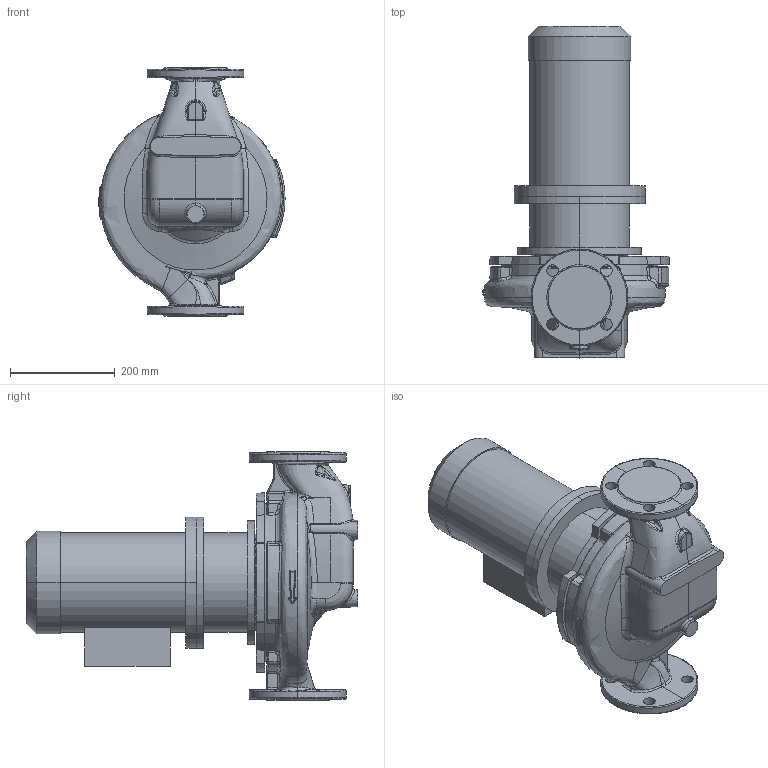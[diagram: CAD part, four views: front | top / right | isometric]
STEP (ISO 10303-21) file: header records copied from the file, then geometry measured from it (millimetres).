
FILE_DESCRIPTION (( 'STEP AP203' ), '1' );
FILE_NAME ('KRL 65-250-4-2,2.STEP', '2026-04-03T09:42:00', ( '' ), ( '' ), 'SwSTEP 2.0', 'SolidWorks 2016', '' );
FILE_SCHEMA (( 'CONFIG_CONTROL_DESIGN' ));
Length unit declared in the file: millimetre
Products named in the file (1): KRL 65-250-4-2,2
Bounding box: 355.42 x 633.3 x 475 mm (x, y, z)
Volume: 28974407.7 mm3; surface area: 1236622.7 mm2
Topology: 4 solids, 4 shells, 621 faces, 1547 edges, 931 vertices
Faces by surface type: bspline 283, cylinder 133, plane 103, cone 43, torus 31, sphere 28
Entity records: 57644 total; most frequent: CARTESIAN_POINT 45456, ORIENTED_EDGE 3058, DIRECTION 1859, EDGE_CURVE 1529, VERTEX_POINT 931, AXIS2_PLACEMENT_3D 797, EDGE_LOOP 652, B_SPLINE_CURVE_WITH_KNOTS 650
